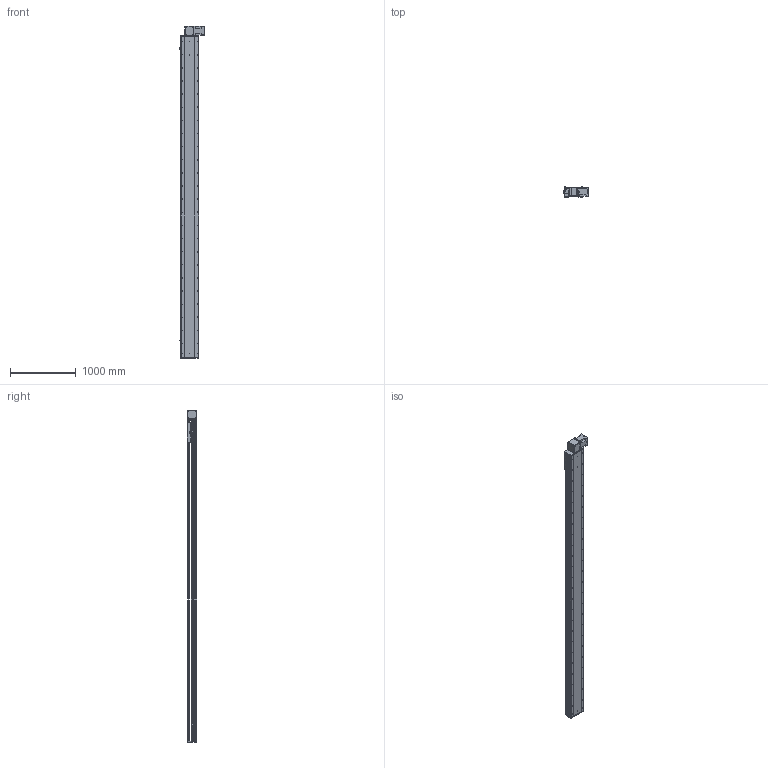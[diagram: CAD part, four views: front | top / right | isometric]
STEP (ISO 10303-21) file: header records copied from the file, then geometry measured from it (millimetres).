
FILE_DESCRIPTION (( 'STEP AP214' ), '1' );
FILE_NAME ('RTB28S-XX-4450-BL-M100-XX-C4.STEP', '2025-12-22T02:46:07', ( '' ), ( '' ), 'SwSTEP 2.0', 'SolidWorks 2018', '' );
FILE_SCHEMA (( 'AUTOMOTIVE_DESIGN' ));
Length unit declared in the file: millimetre
Products named in the file (4): RTB28S-GY-008^RTB28S-XX-XX-BL-M100-XX-C4; RTB28S-GY-004^RTB28S-XX-XX-BL-M100-XX-C4; RTB28S-GY-011^RTB28S-XX-XX-BL-M100-XX-C4; RTB28S-XX-4450-BL-M100-XX-C4
Assembly tree (3 placements, depth 2):
  RTB28S-XX-4450-BL-M100-XX-C4
    RTB28S-GY-011^RTB28S-XX-XX-BL-M100-XX-C4
    RTB28S-GY-004^RTB28S-XX-XX-BL-M100-XX-C4
    RTB28S-GY-008^RTB28S-XX-XX-BL-M100-XX-C4
Bounding box: 380.7 x 145 x 5057 mm (x, y, z)
Volume: 83947227.8 mm3; surface area: 7763712.7 mm2
Topology: 3 solids, 4 shells, 958 faces, 2598 edges, 1668 vertices
Faces by surface type: cylinder 495, plane 379, cone 80, torus 4
Entity records: 37775 total; most frequent: CARTESIAN_POINT 7552, DIRECTION 5544, ORIENTED_EDGE 5132, EDGE_CURVE 2566, AXIS2_PLACEMENT_3D 2072, VERTEX_POINT 1668, LINE 1400, VECTOR 1400
